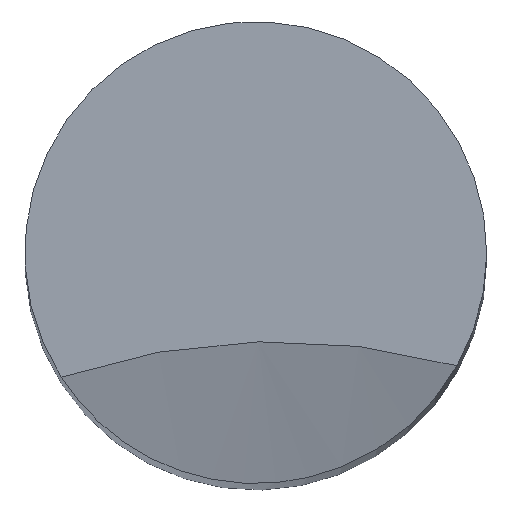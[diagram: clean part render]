
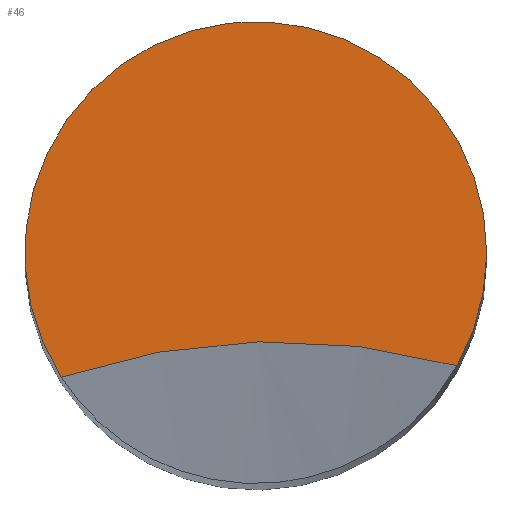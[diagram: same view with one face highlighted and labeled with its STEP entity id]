
A CAD part, top view. The second image highlights one B-rep face of the part: STEP entity #46.
In plain terms, the highlighted planar face has unit normal (0, 0, 1).
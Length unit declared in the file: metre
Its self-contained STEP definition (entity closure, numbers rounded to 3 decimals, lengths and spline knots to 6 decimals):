
#13=PLANE('',#65);
#19=ORIENTED_EDGE('',*,*,#27,.F.);
#20=ORIENTED_EDGE('',*,*,#24,.T.);
#24=EDGE_CURVE('',#28,#29,#31,.T.);
#27=EDGE_CURVE('',#28,#29,#33,.T.);
#28=VERTEX_POINT('',#88);
#29=VERTEX_POINT('',#89);
#31=CIRCLE('',#63,0.008111);
#33=CIRCLE('',#66,0.02375);
#36=EDGE_LOOP('',(#19,#20));
#41=FACE_BOUND('',#36,.T.);
#46=ADVANCED_FACE('',(#41),#13,.T.);
#63=AXIS2_PLACEMENT_3D('',#87,#73,#74);
#65=AXIS2_PLACEMENT_3D('',#99,#77,#78);
#66=AXIS2_PLACEMENT_3D('',#100,#79,#80);
#73=DIRECTION('',(0.,0.,1.));
#74=DIRECTION('',(1.,0.,0.));
#77=DIRECTION('',(0.,0.,1.));
#78=DIRECTION('',(1.,0.,0.));
#79=DIRECTION('',(0.,0.,1.));
#80=DIRECTION('',(1.,0.,0.));
#87=CARTESIAN_POINT('',(0.010231,0.035537,0.061));
#88=CARTESIAN_POINT('',(0.017301,0.031561,0.061));
#89=CARTESIAN_POINT('',(0.0034,0.031164,0.061));
#99=CARTESIAN_POINT('',(-0.04979,0.00644,0.061));
#100=CARTESIAN_POINT('',(0.011,0.008663,0.061));
